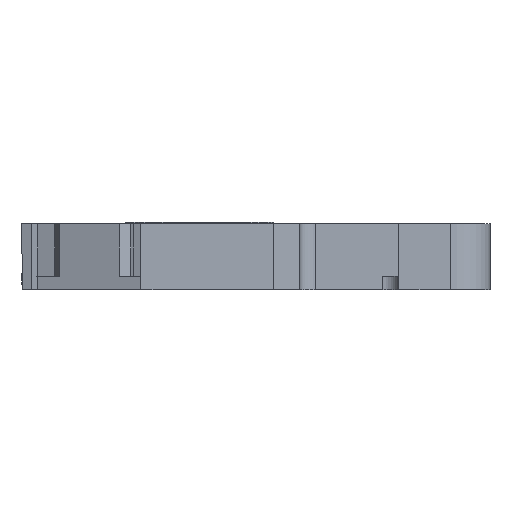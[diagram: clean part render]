
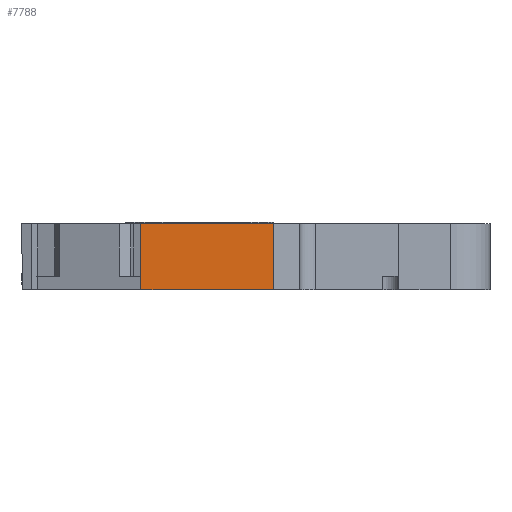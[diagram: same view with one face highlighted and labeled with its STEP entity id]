
A CAD part, left-side view. The second image highlights one B-rep face of the part: STEP entity #7788.
In plain terms, the highlighted planar face has unit normal (-1, 0, 0).
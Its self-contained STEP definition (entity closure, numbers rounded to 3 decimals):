
#352 = DIRECTION ( 'NONE',  ( -1., 0., 0. ) ) ;
#599 = VERTEX_POINT ( 'NONE', #6839 ) ;
#2308 = LINE ( 'NONE', #5109, #7327 ) ;
#2342 = LINE ( 'NONE', #14639, #20352 ) ;
#2610 = ORIENTED_EDGE ( 'NONE', *, *, #6422, .T. ) ;
#3537 = LINE ( 'NONE', #18322, #10554 ) ;
#4205 = PLANE ( 'NONE',  #9041 ) ;
#5032 = EDGE_CURVE ( 'NONE', #17038, #8066, #3537, .T. ) ;
#5109 = CARTESIAN_POINT ( 'NONE',  ( -60.95, 19.5, 0. ) ) ;
#6422 = EDGE_CURVE ( 'NONE', #20773, #599, #2342, .T. ) ;
#6531 = EDGE_CURVE ( 'NONE', #599, #8066, #2308, .T. ) ;
#6749 = EDGE_LOOP ( 'NONE', ( #18289, #2610, #7219, #15810 ) ) ;
#6839 = CARTESIAN_POINT ( 'NONE',  ( -60.95, 19.5, 0. ) ) ;
#7219 = ORIENTED_EDGE ( 'NONE', *, *, #6531, .T. ) ;
#7327 = VECTOR ( 'NONE', #7566, 1000. ) ;
#7566 = DIRECTION ( 'NONE',  ( 0., -1., 0. ) ) ;
#7788 = ADVANCED_FACE ( 'NONE', ( #10886 ), #4205, .T. ) ;
#8066 = VERTEX_POINT ( 'NONE', #14112 ) ;
#8822 = DIRECTION ( 'NONE',  ( 0., 0., -1. ) ) ;
#9041 = AXIS2_PLACEMENT_3D ( 'NONE', #17212, #352, #9507 ) ;
#9045 = DIRECTION ( 'NONE',  ( 0., 1., 0. ) ) ;
#9507 = DIRECTION ( 'NONE',  ( 0., 0., 1. ) ) ;
#10554 = VECTOR ( 'NONE', #8822, 1000. ) ;
#10886 = FACE_OUTER_BOUND ( 'NONE', #6749, .T. ) ;
#11495 = LINE ( 'NONE', #18541, #11637 ) ;
#11637 = VECTOR ( 'NONE', #9045, 1000. ) ;
#12704 = EDGE_CURVE ( 'NONE', #17038, #20773, #11495, .T. ) ;
#14112 = CARTESIAN_POINT ( 'NONE',  ( -60.95, 9.5, 0. ) ) ;
#14639 = CARTESIAN_POINT ( 'NONE',  ( -60.95, 19.5, 5. ) ) ;
#15810 = ORIENTED_EDGE ( 'NONE', *, *, #5032, .F. ) ;
#16394 = DIRECTION ( 'NONE',  ( 0., 0., -1. ) ) ;
#16848 = CARTESIAN_POINT ( 'NONE',  ( -60.95, 19.5, 5. ) ) ;
#17038 = VERTEX_POINT ( 'NONE', #18285 ) ;
#17212 = CARTESIAN_POINT ( 'NONE',  ( -60.95, 19.5, 5. ) ) ;
#18285 = CARTESIAN_POINT ( 'NONE',  ( -60.95, 9.5, 5. ) ) ;
#18289 = ORIENTED_EDGE ( 'NONE', *, *, #12704, .T. ) ;
#18322 = CARTESIAN_POINT ( 'NONE',  ( -60.95, 9.5, 5. ) ) ;
#18541 = CARTESIAN_POINT ( 'NONE',  ( -60.95, 19.5, 5. ) ) ;
#20352 = VECTOR ( 'NONE', #16394, 1000. ) ;
#20773 = VERTEX_POINT ( 'NONE', #16848 ) ;
